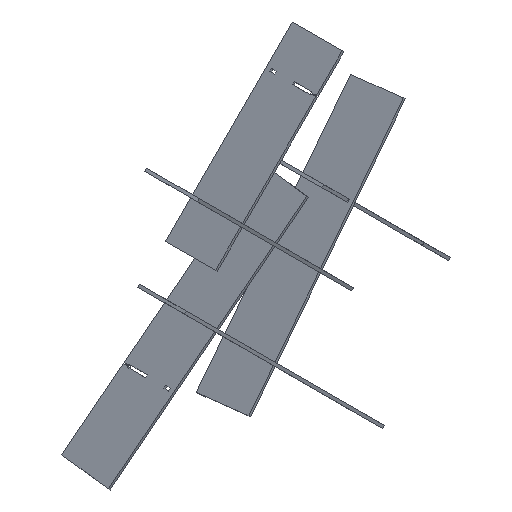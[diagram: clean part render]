
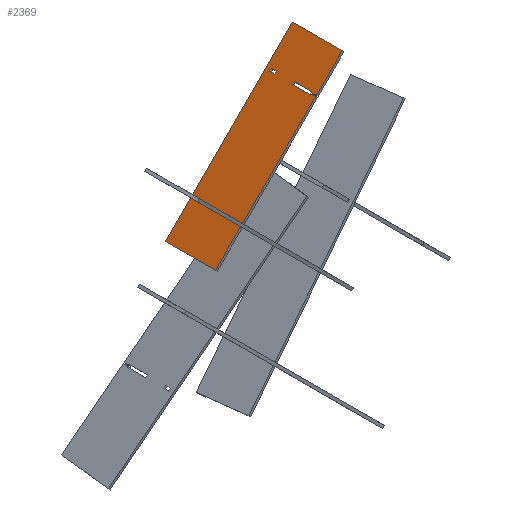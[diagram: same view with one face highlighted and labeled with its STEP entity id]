
A CAD part, isometric view. The second image highlights one B-rep face of the part: STEP entity #2369.
In plain terms, the highlighted planar face has unit normal (-0.707, 0, 0.707) as drawn and (0, 0, 1) by its records, which use the part's own axes.
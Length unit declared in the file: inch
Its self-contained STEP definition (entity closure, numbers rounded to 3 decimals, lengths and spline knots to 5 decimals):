
#59=FACE_BOUND('',#302,.T.);
#60=FACE_BOUND('',#303,.T.);
#175=FACE_OUTER_BOUND('',#301,.T.);
#301=EDGE_LOOP('',(#2087,#2088,#2089,#2090,#2091,#2092,#2093,#2094,#2095,
#2096,#2097,#2098,#2099,#2100,#2101,#2102,#2103,#2104,#2105,#2106));
#302=EDGE_LOOP('',(#2107,#2108,#2109,#2110));
#303=EDGE_LOOP('',(#2111,#2112,#2113,#2114));
#549=LINE('',#3634,#873);
#552=LINE('',#3640,#876);
#555=LINE('',#3646,#879);
#558=LINE('',#3650,#882);
#561=LINE('',#3658,#885);
#564=LINE('',#3664,#888);
#567=LINE('',#3670,#891);
#570=LINE('',#3674,#894);
#573=LINE('',#3682,#897);
#576=LINE('',#3688,#900);
#579=LINE('',#3694,#903);
#582=LINE('',#3700,#906);
#585=LINE('',#3706,#909);
#588=LINE('',#3712,#912);
#591=LINE('',#3718,#915);
#594=LINE('',#3724,#918);
#597=LINE('',#3730,#921);
#600=LINE('',#3736,#924);
#603=LINE('',#3742,#927);
#606=LINE('',#3748,#930);
#609=LINE('',#3754,#933);
#612=LINE('',#3760,#936);
#615=LINE('',#3766,#939);
#618=LINE('',#3772,#942);
#621=LINE('',#3778,#945);
#624=LINE('',#3784,#948);
#627=LINE('',#3790,#951);
#630=LINE('',#3794,#954);
#873=VECTOR('',#2987,0.3937);
#876=VECTOR('',#2992,0.3937);
#879=VECTOR('',#2997,0.3937);
#882=VECTOR('',#3002,0.3937);
#885=VECTOR('',#3007,0.3937);
#888=VECTOR('',#3012,0.3937);
#891=VECTOR('',#3017,0.3937);
#894=VECTOR('',#3022,0.3937);
#897=VECTOR('',#3027,0.3937);
#900=VECTOR('',#3032,0.3937);
#903=VECTOR('',#3037,0.3937);
#906=VECTOR('',#3042,0.3937);
#909=VECTOR('',#3047,0.3937);
#912=VECTOR('',#3052,0.3937);
#915=VECTOR('',#3057,0.3937);
#918=VECTOR('',#3062,0.3937);
#921=VECTOR('',#3067,0.3937);
#924=VECTOR('',#3072,0.3937);
#927=VECTOR('',#3077,0.3937);
#930=VECTOR('',#3082,0.3937);
#933=VECTOR('',#3087,0.3937);
#936=VECTOR('',#3092,0.3937);
#939=VECTOR('',#3097,0.3937);
#942=VECTOR('',#3102,0.3937);
#945=VECTOR('',#3107,0.3937);
#948=VECTOR('',#3112,0.3937);
#951=VECTOR('',#3117,0.3937);
#954=VECTOR('',#3122,0.3937);
#1117=VERTEX_POINT('',#3631);
#1118=VERTEX_POINT('',#3633);
#1120=VERTEX_POINT('',#3639);
#1122=VERTEX_POINT('',#3645);
#1125=VERTEX_POINT('',#3655);
#1126=VERTEX_POINT('',#3657);
#1128=VERTEX_POINT('',#3663);
#1130=VERTEX_POINT('',#3669);
#1133=VERTEX_POINT('',#3679);
#1134=VERTEX_POINT('',#3681);
#1136=VERTEX_POINT('',#3687);
#1138=VERTEX_POINT('',#3693);
#1140=VERTEX_POINT('',#3699);
#1142=VERTEX_POINT('',#3705);
#1144=VERTEX_POINT('',#3711);
#1146=VERTEX_POINT('',#3717);
#1148=VERTEX_POINT('',#3723);
#1150=VERTEX_POINT('',#3729);
#1152=VERTEX_POINT('',#3735);
#1154=VERTEX_POINT('',#3741);
#1156=VERTEX_POINT('',#3747);
#1158=VERTEX_POINT('',#3753);
#1160=VERTEX_POINT('',#3759);
#1162=VERTEX_POINT('',#3765);
#1164=VERTEX_POINT('',#3771);
#1166=VERTEX_POINT('',#3777);
#1168=VERTEX_POINT('',#3783);
#1170=VERTEX_POINT('',#3789);
#1413=EDGE_CURVE('',#1118,#1117,#549,.T.);
#1416=EDGE_CURVE('',#1120,#1118,#552,.T.);
#1419=EDGE_CURVE('',#1122,#1120,#555,.T.);
#1422=EDGE_CURVE('',#1117,#1122,#558,.T.);
#1425=EDGE_CURVE('',#1126,#1125,#561,.T.);
#1428=EDGE_CURVE('',#1128,#1126,#564,.T.);
#1431=EDGE_CURVE('',#1130,#1128,#567,.T.);
#1434=EDGE_CURVE('',#1125,#1130,#570,.T.);
#1437=EDGE_CURVE('',#1134,#1133,#573,.T.);
#1440=EDGE_CURVE('',#1136,#1134,#576,.T.);
#1443=EDGE_CURVE('',#1138,#1136,#579,.T.);
#1446=EDGE_CURVE('',#1140,#1138,#582,.T.);
#1449=EDGE_CURVE('',#1142,#1140,#585,.T.);
#1452=EDGE_CURVE('',#1144,#1142,#588,.T.);
#1455=EDGE_CURVE('',#1146,#1144,#591,.T.);
#1458=EDGE_CURVE('',#1148,#1146,#594,.T.);
#1461=EDGE_CURVE('',#1150,#1148,#597,.T.);
#1464=EDGE_CURVE('',#1152,#1150,#600,.T.);
#1467=EDGE_CURVE('',#1154,#1152,#603,.T.);
#1470=EDGE_CURVE('',#1156,#1154,#606,.T.);
#1473=EDGE_CURVE('',#1158,#1156,#609,.T.);
#1476=EDGE_CURVE('',#1160,#1158,#612,.T.);
#1479=EDGE_CURVE('',#1162,#1160,#615,.T.);
#1482=EDGE_CURVE('',#1164,#1162,#618,.T.);
#1485=EDGE_CURVE('',#1166,#1164,#621,.T.);
#1488=EDGE_CURVE('',#1168,#1166,#624,.T.);
#1491=EDGE_CURVE('',#1170,#1168,#627,.T.);
#1494=EDGE_CURVE('',#1133,#1170,#630,.T.);
#2087=ORIENTED_EDGE('',*,*,#1494,.T.);
#2088=ORIENTED_EDGE('',*,*,#1491,.T.);
#2089=ORIENTED_EDGE('',*,*,#1488,.T.);
#2090=ORIENTED_EDGE('',*,*,#1485,.T.);
#2091=ORIENTED_EDGE('',*,*,#1482,.T.);
#2092=ORIENTED_EDGE('',*,*,#1479,.T.);
#2093=ORIENTED_EDGE('',*,*,#1476,.T.);
#2094=ORIENTED_EDGE('',*,*,#1473,.T.);
#2095=ORIENTED_EDGE('',*,*,#1470,.T.);
#2096=ORIENTED_EDGE('',*,*,#1467,.T.);
#2097=ORIENTED_EDGE('',*,*,#1464,.T.);
#2098=ORIENTED_EDGE('',*,*,#1461,.T.);
#2099=ORIENTED_EDGE('',*,*,#1458,.T.);
#2100=ORIENTED_EDGE('',*,*,#1455,.T.);
#2101=ORIENTED_EDGE('',*,*,#1452,.T.);
#2102=ORIENTED_EDGE('',*,*,#1449,.T.);
#2103=ORIENTED_EDGE('',*,*,#1446,.T.);
#2104=ORIENTED_EDGE('',*,*,#1443,.T.);
#2105=ORIENTED_EDGE('',*,*,#1440,.T.);
#2106=ORIENTED_EDGE('',*,*,#1437,.T.);
#2107=ORIENTED_EDGE('',*,*,#1434,.T.);
#2108=ORIENTED_EDGE('',*,*,#1431,.T.);
#2109=ORIENTED_EDGE('',*,*,#1428,.T.);
#2110=ORIENTED_EDGE('',*,*,#1425,.T.);
#2111=ORIENTED_EDGE('',*,*,#1422,.T.);
#2112=ORIENTED_EDGE('',*,*,#1419,.T.);
#2113=ORIENTED_EDGE('',*,*,#1416,.T.);
#2114=ORIENTED_EDGE('',*,*,#1413,.T.);
#2255=PLANE('',#2559);
#2369=ADVANCED_FACE('',(#175,#59,#60),#2255,.T.);
#2559=AXIS2_PLACEMENT_3D('',#3795,#3123,#3124);
#2987=DIRECTION('',(0.,1.,0.));
#2992=DIRECTION('',(-1.,0.,0.));
#2997=DIRECTION('',(0.,-1.,0.));
#3002=DIRECTION('',(1.,0.,0.));
#3007=DIRECTION('',(0.,1.,0.));
#3012=DIRECTION('',(-1.,0.,0.));
#3017=DIRECTION('',(0.,-1.,0.));
#3022=DIRECTION('',(1.,0.,0.));
#3027=DIRECTION('',(-1.,0.,0.));
#3032=DIRECTION('',(0.,-1.,0.));
#3037=DIRECTION('',(1.,0.,0.));
#3042=DIRECTION('',(0.,1.,0.));
#3047=DIRECTION('',(-1.,0.,0.));
#3052=DIRECTION('',(0.,1.,0.));
#3057=DIRECTION('',(1.,0.,0.));
#3062=DIRECTION('',(0.,-1.,0.));
#3067=DIRECTION('',(-1.,0.,0.));
#3072=DIRECTION('',(0.,-1.,0.));
#3077=DIRECTION('',(1.,0.,0.));
#3082=DIRECTION('',(0.,1.,0.));
#3087=DIRECTION('',(-1.,0.,0.));
#3092=DIRECTION('',(0.,1.,0.));
#3097=DIRECTION('',(1.,0.,0.));
#3102=DIRECTION('',(0.,-1.,0.));
#3107=DIRECTION('',(-1.,0.,0.));
#3112=DIRECTION('',(0.,1.,0.));
#3117=DIRECTION('',(1.,0.,0.));
#3122=DIRECTION('',(0.,-1.,0.));
#3123=DIRECTION('center_axis',(0.,0.,1.));
#3124=DIRECTION('ref_axis',(1.,0.,0.));
#3631=CARTESIAN_POINT('',(26.76718,8.68,0.48));
#3633=CARTESIAN_POINT('',(26.76718,7.74,0.48));
#3634=CARTESIAN_POINT('',(26.76718,7.74,0.48));
#3639=CARTESIAN_POINT('',(27.22722,7.74,0.48));
#3640=CARTESIAN_POINT('',(27.22722,7.74,0.48));
#3645=CARTESIAN_POINT('',(27.22722,8.68,0.48));
#3646=CARTESIAN_POINT('',(27.22722,8.68,0.48));
#3650=CARTESIAN_POINT('',(26.76718,8.68,0.48));
#3655=CARTESIAN_POINT('',(6.77278,8.68,0.48));
#3657=CARTESIAN_POINT('',(6.77278,7.74,0.48));
#3658=CARTESIAN_POINT('',(6.77278,7.74,0.48));
#3663=CARTESIAN_POINT('',(7.23282,7.74,0.48));
#3664=CARTESIAN_POINT('',(7.23282,7.74,0.48));
#3669=CARTESIAN_POINT('',(7.23282,8.68,0.48));
#3670=CARTESIAN_POINT('',(7.23282,8.68,0.48));
#3674=CARTESIAN_POINT('',(6.77278,8.68,0.48));
#3679=CARTESIAN_POINT('',(27.08722,0.94,0.48));
#3681=CARTESIAN_POINT('',(27.22722,0.94,0.48));
#3682=CARTESIAN_POINT('',(27.22722,0.94,0.48));
#3687=CARTESIAN_POINT('',(27.22722,4.34004,0.48));
#3688=CARTESIAN_POINT('',(27.22722,4.34004,0.48));
#3693=CARTESIAN_POINT('',(26.76718,4.34004,0.48));
#3694=CARTESIAN_POINT('',(26.76718,4.34004,0.48));
#3699=CARTESIAN_POINT('',(26.76718,0.94,0.48));
#3700=CARTESIAN_POINT('',(26.76718,0.94,0.48));
#3705=CARTESIAN_POINT('',(26.90718,0.94,0.48));
#3706=CARTESIAN_POINT('',(26.90718,0.94,0.48));
#3711=CARTESIAN_POINT('',(26.90718,0.,0.48));
#3712=CARTESIAN_POINT('',(26.90718,0.,0.48));
#3717=CARTESIAN_POINT('',(7.09282,0.,0.48));
#3718=CARTESIAN_POINT('',(0.,0.,0.48));
#3723=CARTESIAN_POINT('',(7.09282,0.94,0.48));
#3724=CARTESIAN_POINT('',(7.09282,0.94,0.48));
#3729=CARTESIAN_POINT('',(7.23282,0.94,0.48));
#3730=CARTESIAN_POINT('',(7.23282,0.94,0.48));
#3735=CARTESIAN_POINT('',(7.23282,4.34004,0.48));
#3736=CARTESIAN_POINT('',(7.23282,4.34004,0.48));
#3741=CARTESIAN_POINT('',(6.77278,4.34004,0.48));
#3742=CARTESIAN_POINT('',(6.77278,4.34004,0.48));
#3747=CARTESIAN_POINT('',(6.77278,0.94,0.48));
#3748=CARTESIAN_POINT('',(6.77278,0.94,0.48));
#3753=CARTESIAN_POINT('',(6.91278,0.94,0.48));
#3754=CARTESIAN_POINT('',(6.91278,0.94,0.48));
#3759=CARTESIAN_POINT('',(6.91278,0.,0.48));
#3760=CARTESIAN_POINT('',(6.91278,0.,0.48));
#3765=CARTESIAN_POINT('',(0.,0.,0.48));
#3766=CARTESIAN_POINT('',(0.,0.,0.48));
#3771=CARTESIAN_POINT('',(0.,9.5,0.48));
#3772=CARTESIAN_POINT('',(0.,9.5,0.48));
#3777=CARTESIAN_POINT('',(34.,9.5,0.48));
#3778=CARTESIAN_POINT('',(34.,9.5,0.48));
#3783=CARTESIAN_POINT('',(34.,0.,0.48));
#3784=CARTESIAN_POINT('',(34.,0.,0.48));
#3789=CARTESIAN_POINT('',(27.08722,0.,0.48));
#3790=CARTESIAN_POINT('',(0.,0.,0.48));
#3794=CARTESIAN_POINT('',(27.08722,0.94,0.48));
#3795=CARTESIAN_POINT('Origin',(17.,4.75,0.48));
